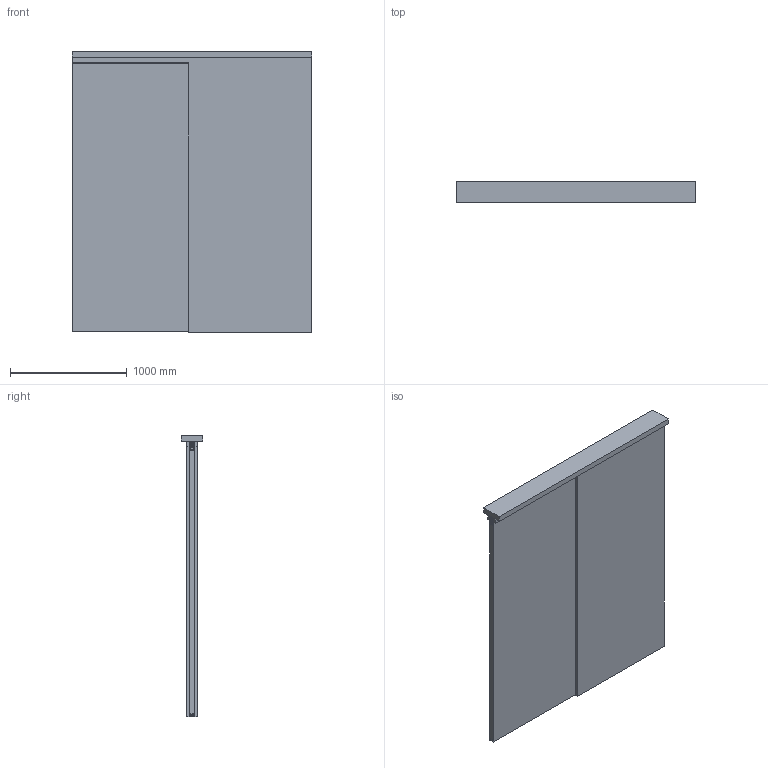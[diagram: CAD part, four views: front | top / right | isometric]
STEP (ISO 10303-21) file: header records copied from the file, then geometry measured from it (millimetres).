
FILE_DESCRIPTION(('STEP AP242'),'1');
FILE_NAME('OPO_65.083.01.stp','2026-02-23T17:27:00',(' '),(' '),'Spatial InterOp 3D',' ',' ');
FILE_SCHEMA(('AP242_MANAGED_MODEL_BASED_3D_ENGINEERING_MIM_LF {1 0 10303 442 1 1 4}'));
Length unit declared in the file: millimetre
Products named in the file (10): Zeichnung1; OPO_65.082.61; OPO_65.083.41; OPO_65.083.01_Aktivator; OPO_65.083.01_Laufwerk_SS_160; OPO_65.083.01_Laufwerk_SS_160_mit_Zweiwege_Daempfer; OPO_65.083.01_Endstopper; OPO_65.083.01_Abdeckung_fuer_Revisionsoeffnung; OPO_65.083.01_Bodenfuehrung_Zweirollen_Holz; AutoCreatedBlock_129
Assembly tree (12 placements, depth 2):
  Zeichnung1
    OPO_65.082.61
    OPO_65.083.41  x2
    OPO_65.083.01_Aktivator  x2
    OPO_65.083.01_Laufwerk_SS_160
    OPO_65.083.01_Laufwerk_SS_160_mit_Zweiwege_Daempfer
    OPO_65.083.01_Endstopper  x2
    OPO_65.083.01_Abdeckung_fuer_Revisionsoeffnung
    OPO_65.083.01_Bodenfuehrung_Zweirollen_Holz
    AutoCreatedBlock_129
Bounding box: 2050.5 x 188 x 2410 mm (x, y, z)
Volume: 213711968.3 mm3; surface area: 17682853.6 mm2
Topology: 80 solids, 80 shells, 1476 faces, 3710 edges, 2450 vertices
Faces by surface type: plane 880, cylinder 576, cone 20
Entity records: 45110 total; most frequent: DIRECTION 6299, CARTESIAN_POINT 6133, ORIENTED_EDGE 5874, EDGE_CURVE 2937, AXIS2_PLACEMENT_3D 2172, LINE 1955, VECTOR 1955, VERTEX_POINT 1942
